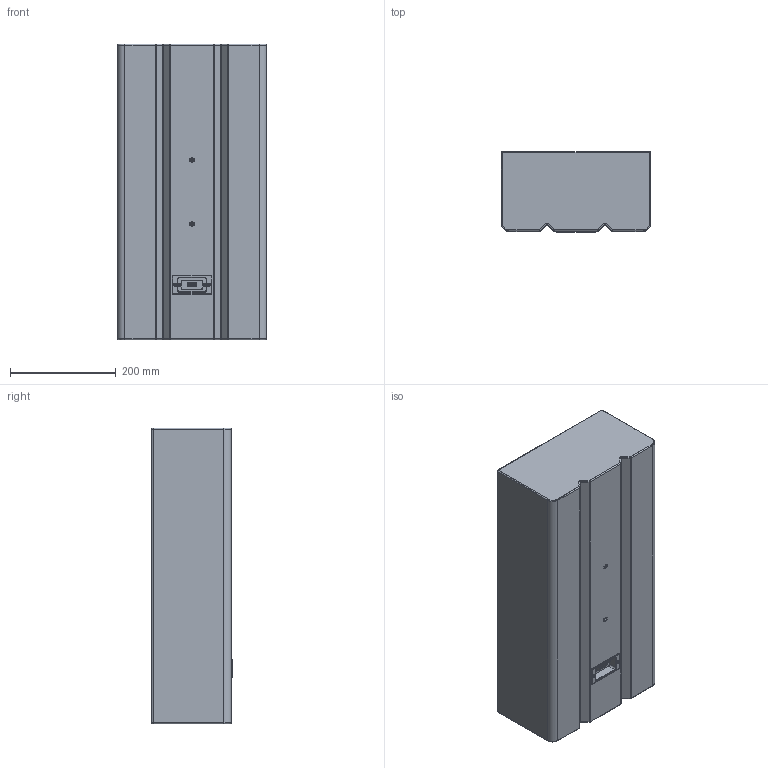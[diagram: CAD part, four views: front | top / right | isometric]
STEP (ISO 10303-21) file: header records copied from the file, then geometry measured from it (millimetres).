
FILE_DESCRIPTION(/* description */ (''),/* implementation_level */ '2;1');
FILE_NAME(/* name */ 'GT12',/* time_stamp */ '2026-03-12T10:00:17+01:00',/* author */ (''),/* organization */ (''),/* preprocessor_version */ 'ST-DEVELOPER v19.2',/* originating_system */ 'Rhino 8.24',/* authorisation */ '');
FILE_SCHEMA (('CONFIG_CONTROL_DESIGN'));
Length unit declared in the file: millimetre
Products named in the file (5): Document; KGEARLOGOB25_02; VTM03x06BTINO _ISO 14583 - M3 x 6 x 5 - 4.8-N; hex socket head screws_iso_ISO 14586 - ST2.9 x 9.5-C-N; KGP032A05_02
Bounding box: 282 x 151.5 x 560 mm (x, y, z)
Volume: 1073992.2 mm3; surface area: 1174508.3 mm2
Topology: 12 solids, 14 shells, 1145 faces, 2745 edges, 1650 vertices
Faces by surface type: plane 582, cylinder 374, bspline 189
Entity records: 41032 total; most frequent: CARTESIAN_POINT 19562, ORIENTED_EDGE 5165, EDGE_CURVE 2585, DIRECTION 2407, B_SPLINE_CURVE_WITH_KNOTS 1734, AXIS2_PLACEMENT_3D 1662, VERTEX_POINT 1582, EDGE_LOOP 1182
